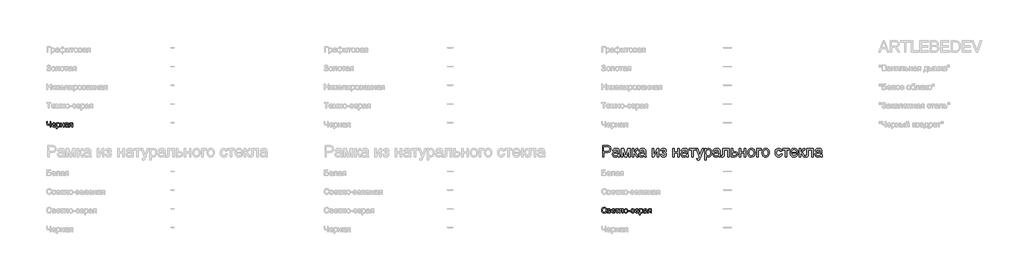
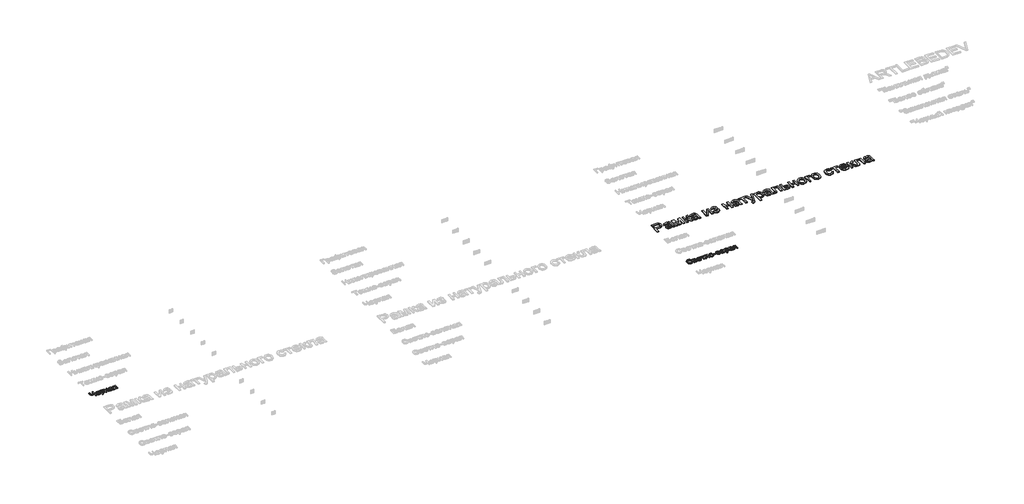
# One storey, part 108 of 168: 3 proxies.
"""IFC4 building model written with IfcOpenShell, lengths in millimetres."""

from ifc_helpers import new_model, si_unit, origin, origin_with_axes, place, context, project, spatial, polyline, outline, extrude, element, save

model = new_model("IFC4")

# Units and contexts
model_context = context("Model", 3, world=origin())
ifc_project = project(units=[si_unit("LENGTHUNIT", "METRE", prefix="MILLI")], contexts=[model_context])

# Site, building, storey
site = spatial("IfcSite", under=ifc_project)
building = spatial("IfcBuilding", under=site)
storey = spatial("IfcBuildingStorey", under=building, Name="Этаж 01", Elevation=0.0)

# Proxies
placement = place(None, origin())
element("IfcBuildingElementProxy", 1, Name="300 мм Arial 2", ObjectType="300 мм Arial 2", at=placement, inside=storey, context=model_context, shape_type="SweptSolid", body=[
    extrude(outline(polyline([(47699.0945017, -16348.4056816), (47699.0945017, -16047.0367511), (47810.7834754, -16047.0367511), (47855.8122316, -16049.9062307), (47875.8893915, -16055.2681108), (47892.4164901, -16063.9961111), (47905.7246213, -16076.4857048), (47916.1448788, -16093.1323651), (47922.8771193, -16112.7680666), (47925.1211995, -16134.224784), (47923.6059855, -16152.7246498), (47919.0603436, -16169.7437906), (47911.4842738, -16185.2822064), (47900.877776, -16199.3398971), (47886.3165468, -16210.9925593), (47866.8762826, -16219.3158895), (47842.5569835, -16224.3098875), (47813.3586494, -16225.9745536), (47736.765618, -16225.9745536), (47736.765618, -16348.4056816), (47699.0945017, -16348.4056816)]), holes=[polyline([(47736.765618, -16188.3034373), (47815.5659413, -16188.3034373), (47848.9696265, -16184.8453465), (47871.0425462, -16174.4710742), (47883.3481989, -16157.824414), (47887.4500832, -16135.5491592), (47885.0312591, -16118.6265874), (47877.7747867, -16104.352766), (47866.581977, -16093.6106117), (47852.3541408, -16087.2830414), (47814.6830245, -16084.7078674), (47736.765618, -16084.7078674), (47736.765618, -16188.3034373)])]), origin_with_axes(), (0.0, 0.0, 1.0), 20.0),
    extrude(outline(polyline([(48113.476781, -16320.1523443), (48095.4781544, -16335.584994), (48076.9460989, -16345.6833548), (48057.4575502, -16351.256767), (48036.589444, -16353.1145711), (48005.1079423, -16348.6448049), (47981.8853914, -16335.2355061), (47967.5655847, -16314.8732377), (47962.7923158, -16289.5445623), (47964.5949376, -16273.9279716), (47970.0028029, -16259.7461207), (47978.3445271, -16247.6060149), (47988.9487257, -16238.1146594), (48015.3258647, -16225.7538244), (48047.9202095, -16220.0884417), (48086.4374544, -16214.1287533), (48113.2560518, -16207.1389954), (48113.476781, -16198.7512859), (48110.883213, -16181.9390788), (48103.1025088, -16170.9394071), (48085.7016904, -16162.7724268), (48061.4582669, -16160.0501), (48039.0174652, -16161.8619189), (48023.3456922, -16167.2973753), (48012.6587202, -16177.3497509), (48005.1723216, -16193.0123268), (47967.5012053, -16188.3034373), (47974.0403078, -16167.7020455), (47983.7983777, -16151.5152378), (47997.685923, -16139.1360086), (48016.6134517, -16129.9573528), (48039.7624262, -16124.273576), (48066.3143092, -16122.3789837), (48091.7809404, -16124.0528468), (48111.9684648, -16129.074436), (48127.1895824, -16136.625214), (48137.7569927, -16145.8866432), (48144.7651447, -16157.3369703), (48149.3084874, -16171.4544419), (48151.1478973, -16204.4166687), (48151.1478973, -16251.2848348), (48153.0608837, -16316.7310418), (48160.5656764, -16348.4056816), (48122.8945601, -16348.4056816), (48113.476781, -16320.1523443)]), holes=[polyline([(48113.476781, -16244.8101117), (48052.7026754, -16256.3616064), (48020.2922716, -16262.4684475), (48005.61378, -16272.4012614), (48000.4634321, -16286.895812), (48003.2685323, -16298.0978187), (48011.683833, -16307.2764745), (48025.525393, -16313.4017097), (48044.6092715, -16315.4434548), (48064.8427813, -16313.1901776), (48082.7218462, -16306.4303459), (48097.2163968, -16296.4699409), (48107.2963635, -16284.6149436), (48111.7661297, -16272.4012614), (48113.2560518, -16255.4786896), (48113.476781, -16244.8101117)])]), origin_with_axes(), (0.0, 0.0, 1.0), 20.0),
    extrude(outline(polyline([(48202.9456823, -16127.0878733), (48267.7664898, -16127.0878733), (48317.7248647, -16304.2598421), (48371.5827888, -16127.0878733), (48433.6812696, -16127.0878733), (48433.6812696, -16348.4056816), (48396.0101533, -16348.4056816), (48396.0101533, -16170.2036431), (48341.8579236, -16348.4056816), (48292.4145835, -16348.4056816), (48240.6167986, -16161.6687808), (48240.6167986, -16348.4056816), (48202.9456823, -16348.4056816), (48202.9456823, -16127.0878733)])), origin_with_axes(), (0.0, 0.0, 1.0), 20.0),
    extrude(outline(polyline([(48490.1879441, -16127.0878733), (48527.8590604, -16127.0878733), (48527.8590604, -16221.265664), (48543.1813455, -16219.5734069), (48553.0957653, -16214.4966353), (48561.8697508, -16201.2528835), (48573.7707334, -16175.0596854), (48590.9508226, -16141.0306009), (48606.1075608, -16129.9573528), (48633.6619222, -16127.0878733), (48640.8724093, -16127.0878733), (48640.8724093, -16164.9797188), (48630.7188662, -16164.7589896), (48612.3247665, -16168.7321151), (48599.3753203, -16193.5273616), (48584.1817939, -16220.345959), (48562.8814263, -16233.4793463), (48574.8191971, -16238.7814455), (48586.6466032, -16248.1394438), (48609.9703217, -16279.0231373), (48650.2901884, -16348.4056816), (48607.4687241, -16348.4056816), (48567.9581979, -16280.4946653), (48548.0925701, -16251.7630814), (48538.8035497, -16246.5483542), (48527.8590604, -16244.8101117), (48527.8590604, -16348.4056816), (48490.1879441, -16348.4056816), (48490.1879441, -16127.0878733)])), origin_with_axes(), (0.0, 0.0, 1.0), 20.0),
    extrude(outline(polyline([(48815.1013222, -16320.1523443), (48797.1026956, -16335.584994), (48778.5706401, -16345.6833548), (48759.0820914, -16351.256767), (48738.2139852, -16353.1145711), (48706.7324835, -16348.6448049), (48683.5099326, -16335.2355061), (48669.1901259, -16314.8732377), (48664.416857, -16289.5445623), (48666.2194788, -16273.9279716), (48671.6273441, -16259.7461207), (48679.9690683, -16247.6060149), (48690.5732669, -16238.1146594), (48716.9504059, -16225.7538244), (48749.5447507, -16220.0884417), (48788.0619956, -16214.1287533), (48814.880593, -16207.1389954), (48815.1013222, -16198.7512859), (48812.5077542, -16181.9390788), (48804.72705, -16170.9394071), (48787.3262316, -16162.7724268), (48763.0828081, -16160.0501), (48740.6420064, -16161.8619189), (48724.9702334, -16167.2973753), (48714.2832614, -16177.3497509), (48706.7968628, -16193.0123268), (48669.1257465, -16188.3034373), (48675.664849, -16167.7020455), (48685.4229189, -16151.5152378), (48699.3104642, -16139.1360086), (48718.2379929, -16129.9573528), (48741.3869674, -16124.273576), (48767.9388504, -16122.3789837), (48793.4054816, -16124.0528468), (48813.593006, -16129.074436), (48828.8141236, -16136.625214), (48839.3815339, -16145.8866432), (48846.3896859, -16157.3369703), (48850.9330286, -16171.4544419), (48852.7724385, -16204.4166687), (48852.7724385, -16251.2848348), (48854.6854249, -16316.7310418), (48862.1902176, -16348.4056816), (48824.5191013, -16348.4056816), (48815.1013222, -16320.1523443)]), holes=[polyline([(48815.1013222, -16244.8101117), (48754.3272166, -16256.3616064), (48721.9168128, -16262.4684475), (48707.2383212, -16272.4012614), (48702.0879733, -16286.895812), (48704.8930735, -16298.0978187), (48713.3083742, -16307.2764745), (48727.1499342, -16313.4017097), (48746.2338127, -16315.4434548), (48766.4673225, -16313.1901776), (48784.3463874, -16306.4303459), (48798.840938, -16296.4699409), (48808.9209047, -16284.6149436), (48813.3906709, -16272.4012614), (48814.880593, -16255.4786896), (48815.1013222, -16244.8101117)])]), origin_with_axes(), (0.0, 0.0, 1.0), 20.0),
    extrude(outline(polyline([(49022.2924619, -16127.0878733), (49059.9635782, -16127.0878733), (49059.9635782, -16295.8721327), (49152.5226882, -16127.0878733), (49201.2302644, -16127.0878733), (49201.2302644, -16348.4056816), (49163.5591481, -16348.4056816), (49163.5591481, -16180.6514918), (49071.5886493, -16348.4056816), (49022.2924619, -16348.4056816), (49022.2924619, -16127.0878733)])), origin_with_axes(), (0.0, 0.0, 1.0), 20.0),
    extrude(outline(polyline([(49309.5347237, -16249.5190013), (49309.5347237, -16211.847885), (49339.259589, -16210.376357), (49354.2691744, -16202.5404705), (49359.5666751, -16195.1920276), (49361.3325087, -16186.1697217), (49358.9688668, -16175.4551586), (49351.8779414, -16167.1502225), (49341.0530137, -16161.8251307), (49327.4873651, -16160.0501), (49313.7745637, -16161.8159336), (49302.2874484, -16167.1134343), (49293.0260192, -16175.9426022), (49285.9902761, -16188.3034373), (49243.6102702, -16183.5945477), (49254.8490652, -16156.8127385), (49271.9371838, -16137.6828747), (49294.8746262, -16126.2049565), (49323.6613924, -16122.3789837), (49355.1520911, -16127.041888), (49378.9908444, -16141.0306009), (49394.0004298, -16161.4940369), (49399.003625, -16185.5811105), (49397.2239958, -16197.9419455), (49391.8851084, -16208.9784054), (49382.9869626, -16218.6904901), (49370.5295585, -16227.0781996), (49385.0700944, -16237.5444423), (49395.4351696, -16250.5490709), (49401.6431783, -16266.1288733), (49403.7125145, -16284.320638), (49398.460999, -16312.0497434), (49382.7064526, -16334.0214956), (49357.515733, -16348.3413022), (49323.955698, -16353.1145711), (49291.1314269, -16348.6999872), (49266.0142837, -16335.4562353), (49248.6042683, -16313.3833156), (49238.9013807, -16282.481228), (49281.2813865, -16277.7723385), (49287.6273509, -16293.7016289), (49298.2775347, -16305.5842173), (49311.9995331, -16312.9786454), (49327.5609415, -16315.4434548), (49342.7176797, -16313.079813), (49355.0785147, -16305.9888875), (49363.3006773, -16295.2191421), (49366.0413982, -16281.8190404), (49364.339944, -16271.2056449), (49359.2355813, -16262.0269891), (49344.7410307, -16251.4319876), (49316.8923636, -16249.2982721), (49309.5347237, -16249.5190013)])), origin_with_axes(), (0.0, 0.0, 1.0), 20.0),
    extrude(outline(polyline([(49568.5236483, -16127.0878733), (49606.1947647, -16127.0878733), (49606.1947647, -16211.847885), (49705.081445, -16211.847885), (49705.081445, -16127.0878733), (49742.7525613, -16127.0878733), (49742.7525613, -16348.4056816), (49705.081445, -16348.4056816), (49705.081445, -16249.5190013), (49606.1947647, -16249.5190013), (49606.1947647, -16348.4056816), (49568.5236483, -16348.4056816), (49568.5236483, -16127.0878733)])), origin_with_axes(), (0.0, 0.0, 1.0), 20.0),
    extrude(outline(polyline([(49940.5259219, -16320.1523443), (49922.5272953, -16335.584994), (49903.9952397, -16345.6833548), (49884.5066911, -16351.256767), (49863.6385849, -16353.1145711), (49832.1570831, -16348.6448049), (49808.9345322, -16335.2355061), (49794.6147255, -16314.8732377), (49789.8414566, -16289.5445623), (49791.6440784, -16273.9279716), (49797.0519438, -16259.7461207), (49805.393668, -16247.6060149), (49815.9978665, -16238.1146594), (49842.3750056, -16225.7538244), (49874.9693503, -16220.0884417), (49913.4865952, -16214.1287533), (49940.3051927, -16207.1389954), (49940.5259219, -16198.7512859), (49937.9323538, -16181.9390788), (49930.1516496, -16170.9394071), (49912.7508312, -16162.7724268), (49888.5074078, -16160.0501), (49866.066606, -16161.8619189), (49850.3948331, -16167.2973753), (49839.7078611, -16177.3497509), (49832.2214625, -16193.0123268), (49794.5503462, -16188.3034373), (49801.0894486, -16167.7020455), (49810.8475186, -16151.5152378), (49824.7350639, -16139.1360086), (49843.6625925, -16129.9573528), (49866.8115671, -16124.273576), (49893.3634501, -16122.3789837), (49918.8300812, -16124.0528468), (49939.0176057, -16129.074436), (49954.2387232, -16136.625214), (49964.8061336, -16145.8866432), (49971.8142856, -16157.3369703), (49976.3576282, -16171.4544419), (49978.1970382, -16204.4166687), (49978.1970382, -16251.2848348), (49980.1100246, -16316.7310418), (49987.6148173, -16348.4056816), (49949.9437009, -16348.4056816), (49940.5259219, -16320.1523443)]), holes=[polyline([(49940.5259219, -16244.8101117), (49879.7518163, -16256.3616064), (49847.3414125, -16262.4684475), (49832.6629209, -16272.4012614), (49827.512573, -16286.895812), (49830.3176732, -16298.0978187), (49838.7329738, -16307.2764745), (49852.5745339, -16313.4017097), (49871.6584124, -16315.4434548), (49891.8919221, -16313.1901776), (49909.7709871, -16306.4303459), (49924.2655377, -16296.4699409), (49934.3455044, -16284.6149436), (49938.8152706, -16272.4012614), (49940.3051927, -16255.4786896), (49940.5259219, -16244.8101117)])]), origin_with_axes(), (0.0, 0.0, 1.0), 20.0),
    extrude(outline(polyline([(50011.1592649, -16127.0878733), (50190.0970674, -16127.0878733), (50190.0970674, -16164.7589896), (50119.4637243, -16164.7589896), (50119.4637243, -16348.4056816), (50081.792608, -16348.4056816), (50081.792608, -16164.7589896), (50011.1592649, -16164.7589896), (50011.1592649, -16127.0878733)])), origin_with_axes(), (0.0, 0.0, 1.0), 20.0),
    extrude(outline(polyline([(50223.0592942, -16433.1656933), (50218.3504046, -16396.8925285), (50237.4802684, -16400.2034665), (50255.3593333, -16396.0463999), (50266.3222168, -16384.4581171), (50276.6229127, -16356.7198147), (50279.5659686, -16347.5963412), (50199.5148465, -16127.0878733), (50239.246102, -16127.0878733), (50281.6996842, -16249.9604597), (50296.4885404, -16299.1094942), (50311.2773966, -16255.6994188), (50354.9082012, -16127.0878733), (50394.3451511, -16127.0878733), (50317.3106613, -16353.7031823), (50297.2978808, -16402.8522169), (50287.0523672, -16418.5423839), (50275.4456903, -16429.4132969), (50261.9628152, -16435.7592613), (50246.0887071, -16437.8745828), (50223.0592942, -16433.1656933)])), origin_with_axes(), (0.0, 0.0, 1.0), 20.0),
    extrude(outline(polyline([(50425.5415443, -16433.1656933), (50425.5415443, -16127.0878733), (50463.2126606, -16127.0878733), (50463.2126606, -16164.0232256), (50475.4999193, -16145.8038698), (50489.2587059, -16132.7900442), (50505.2983609, -16124.9817488), (50524.4282246, -16122.3789837), (50549.9040528, -16126.0210155), (50572.1793076, -16136.9471107), (50590.31589, -16154.4950819), (50603.3757008, -16178.0027414), (50611.2667696, -16205.7594379), (50613.8971258, -16236.0545202), (50610.9264787, -16268.271786), (50602.0145374, -16297.0861432), (50587.4464104, -16321.0352611), (50567.5072063, -16338.6568087), (50544.2846553, -16349.5001305), (50519.8664879, -16353.1145711), (50502.548443, -16350.695747), (50487.0882021, -16343.4392746), (50473.8536473, -16332.4855882), (50463.2126606, -16318.975122), (50463.2126606, -16433.1656933), (50425.5415443, -16433.1656933)]), holes=[polyline([(50463.2126606, -16239.512611), (50467.2869537, -16273.2841782), (50479.509833, -16296.9022022), (50497.5452478, -16310.8081417), (50519.0571475, -16315.4434548), (50540.918535, -16310.6425948), (50559.4138024, -16296.2400147), (50572.0229577, -16271.7574679), (50576.2260095, -16236.7167078), (50572.1241253, -16203.1290817), (50559.8184726, -16179.1799638), (50541.8106489, -16164.832566), (50520.6022519, -16160.0501), (50499.3110814, -16165.1360686), (50480.613479, -16180.3939744), (50467.5628652, -16205.3455707), (50463.2126606, -16239.512611)])]), origin_with_axes(), (0.0, 0.0, 1.0), 20.0),
    extrude(outline(polyline([(50797.5438178, -16320.1523443), (50779.5451912, -16335.584994), (50761.0131357, -16345.6833548), (50741.524587, -16351.256767), (50720.6564808, -16353.1145711), (50689.1749791, -16348.6448049), (50665.9524282, -16335.2355061), (50651.6326215, -16314.8732377), (50646.8593526, -16289.5445623), (50648.6619744, -16273.9279716), (50654.0698397, -16259.7461207), (50662.411564, -16247.6060149), (50673.0157625, -16238.1146594), (50699.3929015, -16225.7538244), (50731.9872463, -16220.0884417), (50770.5044912, -16214.1287533), (50797.3230886, -16207.1389954), (50797.5438178, -16198.7512859), (50794.9502498, -16181.9390788), (50787.1695456, -16170.9394071), (50769.7687272, -16162.7724268), (50745.5253037, -16160.0501), (50723.084502, -16161.8619189), (50707.412729, -16167.2973753), (50696.7257571, -16177.3497509), (50689.2393585, -16193.0123268), (50651.5682421, -16188.3034373), (50658.1073446, -16167.7020455), (50667.8654145, -16151.5152378), (50681.7529599, -16139.1360086), (50700.6804885, -16129.9573528), (50723.8294631, -16124.273576), (50750.3813461, -16122.3789837), (50775.8479772, -16124.0528468), (50796.0355017, -16129.074436), (50811.2566192, -16136.625214), (50821.8240295, -16145.8866432), (50828.8321815, -16157.3369703), (50833.3755242, -16171.4544419), (50835.2149341, -16204.4166687), (50835.2149341, -16251.2848348), (50837.1279205, -16316.7310418), (50844.6327132, -16348.4056816), (50806.9615969, -16348.4056816), (50797.5438178, -16320.1523443)]), holes=[polyline([(50797.5438178, -16244.8101117), (50736.7697122, -16256.3616064), (50704.3593085, -16262.4684475), (50689.6808168, -16272.4012614), (50684.5304689, -16286.895812), (50687.3355691, -16298.0978187), (50695.7508698, -16307.2764745), (50709.5924298, -16313.4017097), (50728.6763083, -16315.4434548), (50748.9098181, -16313.1901776), (50766.788883, -16306.4303459), (50781.2834336, -16296.4699409), (50791.3634003, -16284.6149436), (50795.8331666, -16272.4012614), (50797.3230886, -16255.4786896), (50797.5438178, -16244.8101117)])]), origin_with_axes(), (0.0, 0.0, 1.0), 20.0),
    extrude(outline(polyline([(50905.8482772, -16127.0878733), (51075.3683006, -16127.0878733), (51075.3683006, -16348.1849524), (51037.6971843, -16348.1849524), (51037.6971843, -16164.7589896), (50943.5193935, -16164.7589896), (50943.5193935, -16270.3411222), (50940.9810078, -16319.0486984), (50936.226133, -16330.0759612), (50927.0382801, -16339.6133019), (50913.0955525, -16346.2075866), (50894.0760534, -16348.4056816), (50863.4682714, -16346.4926952), (50863.4682714, -16310.7345653), (50880.3172667, -16310.7345653), (50897.3502031, -16308.4169087), (50904.15602, -16301.0592688), (50905.8482772, -16268.2074066), (50905.8482772, -16127.0878733)])), origin_with_axes(), (0.0, 0.0, 1.0), 20.0),
    extrude(outline(polyline([(51131.8749751, -16127.0878733), (51169.5460914, -16127.0878733), (51169.5460914, -16207.1389954), (51212.9561668, -16207.1389954), (51250.5904949, -16211.857082), (51265.738036, -16217.7546902), (51278.4391619, -16226.0113418), (51288.4823404, -16236.3419281), (51295.6560393, -16248.4613405), (51301.3949984, -16278.0666441), (51296.5113649, -16305.0231973), (51281.8604645, -16327.7675016), (51270.6285673, -16336.7967054), (51256.4674098, -16343.2461366), (51219.3573135, -16348.4056816), (51131.8749751, -16348.4056816), (51131.8749751, -16127.0878733)]), holes=[polyline([(51169.5460914, -16310.7345653), (51204.7156101, -16310.7345653), (51232.0032571, -16308.7571995), (51250.1490365, -16302.8251024), (51260.3301707, -16292.6991504), (51263.7238821, -16278.1402205), (51261.2130875, -16265.8345678), (51253.6807037, -16254.9636548), (51237.5398811, -16247.3484975), (51209.2037704, -16244.8101117), (51169.5460914, -16244.8101117), (51169.5460914, -16310.7345653)])]), origin_with_axes(), (0.0, 0.0, 1.0), 20.0),
    extrude(outline(polyline([(51348.4838938, -16127.0878733), (51386.1550101, -16127.0878733), (51386.1550101, -16211.847885), (51485.0416904, -16211.847885), (51485.0416904, -16127.0878733), (51522.7128067, -16127.0878733), (51522.7128067, -16348.4056816), (51485.0416904, -16348.4056816), (51485.0416904, -16249.5190013), (51386.1550101, -16249.5190013), (51386.1550101, -16348.4056816), (51348.4838938, -16348.4056816), (51348.4838938, -16127.0878733)])), origin_with_axes(), (0.0, 0.0, 1.0), 20.0),
    extrude(outline(polyline([(51569.8017021, -16237.7467774), (51571.8388487, -16209.0841715), (51577.9502883, -16184.385494), (51588.136021, -16163.6507451), (51602.3960469, -16146.8799246), (51616.7526417, -16136.160763), (51632.5991587, -16128.504219), (51649.9355977, -16123.9102925), (51668.7619588, -16122.3789837), (51689.5449923, -16124.2436856), (51708.3368644, -16129.8377912), (51725.1375753, -16139.1613005), (51739.9471249, -16152.2142135), (51752.0343477, -16168.5550719), (51760.6680783, -16187.7424172), (51765.8483166, -16209.7762495), (51767.5750627, -16234.6565687), (51764.5216422, -16272.7139611), (51755.3613805, -16301.6846682), (51740.3609921, -16323.3805088), (51719.7871915, -16339.6133019), (51695.35063, -16349.7392538), (51668.7619588, -16353.1145711), (51647.6754227, -16351.256767), (51628.7088066, -16345.6833548), (51611.8621105, -16336.3943344), (51597.1353344, -16323.3897059), (51585.1768702, -16306.8901984), (51576.6351102, -16287.1165412), (51571.5100541, -16264.0687342), (51569.8017021, -16237.7467774)]), holes=[polyline([(51607.4728184, -16237.673201), (51611.8322201, -16271.7666649), (51624.910425, -16296.0560737), (51644.5921117, -16310.5966095), (51668.7619588, -16315.4434548), (51692.8214413, -16310.5690184), (51712.4663398, -16295.9457091), (51725.5445448, -16271.3344036), (51729.9039464, -16236.4959786), (51725.5169536, -16203.3957961), (51712.3559752, -16179.4374812), (51692.6834855, -16164.8969453), (51668.7619588, -16160.0501), (51644.5921117, -16164.8785512), (51624.910425, -16179.3639048), (51611.8322201, -16203.5981312), (51607.4728184, -16237.673201)])]), origin_with_axes(), (0.0, 0.0, 1.0), 20.0),
    extrude(outline(polyline([(51809.9550686, -16127.0878733), (51932.3861966, -16127.0878733), (51932.3861966, -16164.7589896), (51847.6261849, -16164.7589896), (51847.6261849, -16348.4056816), (51809.9550686, -16348.4056816), (51809.9550686, -16127.0878733)])), origin_with_axes(), (0.0, 0.0, 1.0), 20.0),
    extrude(outline(polyline([(51951.2217547, -16237.7467774), (51953.2589013, -16209.0841715), (51959.3703409, -16184.385494), (51969.5560736, -16163.6507451), (51983.8160995, -16146.8799246), (51998.1726943, -16136.160763), (52014.0192113, -16128.504219), (52031.3556503, -16123.9102925), (52050.1820114, -16122.3789837), (52070.9650449, -16124.2436856), (52089.756917, -16129.8377912), (52106.5576279, -16139.1613005), (52121.3671775, -16152.2142135), (52133.4544003, -16168.5550719), (52142.0881309, -16187.7424172), (52147.2683692, -16209.7762495), (52148.9951153, -16234.6565687), (52145.9416948, -16272.7139611), (52136.7814331, -16301.6846682), (52121.7810447, -16323.3805088), (52101.2072441, -16339.6133019), (52076.7706826, -16349.7392538), (52050.1820114, -16353.1145711), (52029.0954753, -16351.256767), (52010.1288592, -16345.6833548), (51993.2821631, -16336.3943344), (51978.555387, -16323.3897059), (51966.5969228, -16306.8901984), (51958.0551628, -16287.1165412), (51952.9301067, -16264.0687342), (51951.2217547, -16237.7467774)]), holes=[polyline([(51988.892871, -16237.673201), (51993.2522727, -16271.7666649), (52006.3304776, -16296.0560737), (52026.0121643, -16310.5966095), (52050.1820114, -16315.4434548), (52074.2414939, -16310.5690184), (52093.8863924, -16295.9457091), (52106.9645974, -16271.3344036), (52111.323999, -16236.4959786), (52106.9370062, -16203.3957961), (52093.7760278, -16179.4374812), (52074.1035381, -16164.8969453), (52050.1820114, -16160.0501), (52026.0121643, -16164.8785512), (52006.3304776, -16179.3639048), (51993.2522727, -16203.5981312), (51988.892871, -16237.673201)])]), origin_with_axes(), (0.0, 0.0, 1.0), 20.0),
    extrude(outline(polyline([(52450.3640458, -16268.3545594), (52488.0351621, -16273.063449), (52477.5321311, -16306.5683017), (52457.7952621, -16331.88778), (52430.682359, -16347.8078733), (52398.0512261, -16353.1145711), (52376.9233032, -16351.2636648), (52357.9796797, -16345.710946), (52341.2203556, -16336.4564145), (52326.6453308, -16323.5000705), (52314.8478151, -16307.0856357), (52306.4210181, -16287.456832), (52301.3649399, -16264.6136594), (52299.6795805, -16238.5561178), (52302.5582572, -16205.032871), (52311.194287, -16175.9793904), (52325.7256258, -16152.5177162), (52346.2902293, -16135.7698884), (52370.8923378, -16125.7267099), (52397.5361913, -16122.3789837), (52429.3671809, -16126.9775087), (52454.8154179, -16140.7730835), (52473.0715619, -16163.0299442), (52483.3262725, -16193.0123268), (52445.6551562, -16197.7212163), (52438.8217482, -16181.2860882), (52428.1807615, -16169.5046673), (52414.3208073, -16162.4137419), (52397.8304969, -16160.0501), (52373.4859058, -16164.7038073), (52354.162904, -16178.664929), (52341.5537486, -16202.6876233), (52337.3506968, -16237.5260482), (52341.4617781, -16272.8335227), (52353.795022, -16296.9389904), (52372.7685359, -16310.8173387), (52396.8004273, -16315.4434548), (52416.3073701, -16312.5555811), (52432.3010398, -16303.8919602), (52443.9353079, -16289.2318626), (52450.3640458, -16268.3545594)])), origin_with_axes(), (0.0, 0.0, 1.0), 20.0),
    extrude(outline(polyline([(52502.1618307, -16127.0878733), (52681.0996331, -16127.0878733), (52681.0996331, -16164.7589896), (52610.4662901, -16164.7589896), (52610.4662901, -16348.4056816), (52572.7951738, -16348.4056816), (52572.7951738, -16164.7589896), (52502.1618307, -16164.7589896), (52502.1618307, -16127.0878733)])), origin_with_axes(), (0.0, 0.0, 1.0), 20.0),
    extrude(outline(polyline([(52869.0137563, -16282.481228), (52905.9491086, -16287.1901176), (52892.6409774, -16315.0203905), (52871.4049892, -16335.8241173), (52842.7193907, -16348.7919577), (52807.0624283, -16353.1145711), (52783.688126, -16351.2498692), (52762.8614066, -16345.6557637), (52744.5822699, -16336.3322543), (52728.8507161, -16323.2793413), (52716.200174, -16306.860308), (52707.1640725, -16287.4384379), (52701.7424116, -16265.013731), (52699.9351913, -16239.5861874), (52701.7608057, -16213.2964203), (52707.2376489, -16190.1244531), (52716.3657209, -16170.0702859), (52729.1450217, -16153.1339185), (52744.8351888, -16139.6786346), (52762.6958597, -16130.0677174), (52782.7270343, -16124.3011672), (52804.9287127, -16122.3789837), (52826.4153205, -16124.2965686), (52845.8463876, -16130.0493233), (52863.2219141, -16139.6372478), (52878.5419, -16153.0603421), (52891.0475885, -16169.9599213), (52899.9802232, -16189.9773003), (52905.339804, -16213.1124793), (52907.126331, -16239.3654582), (52906.9056018, -16249.5190013), (52737.6063076, -16249.5190013), (52744.127016, -16277.7171562), (52759.2745571, -16298.4473066), (52781.1359447, -16311.1944178), (52807.7981923, -16315.4434548), (52827.847761, -16313.4752861), (52844.7335446, -16307.5707801), (52858.455543, -16297.3620547), (52869.0137563, -16282.481228)]), holes=[polyline([(52737.6063076, -16211.847885), (52869.4552147, -16211.847885), (52864.360049, -16191.945469), (52854.3720529, -16177.7084358), (52832.4094978, -16164.464684), (52804.7815599, -16160.0501), (52779.3885052, -16163.5725701), (52758.3916403, -16174.1399805), (52743.7959222, -16190.6118968), (52737.6063076, -16211.847885)])]), origin_with_axes(), (0.0, 0.0, 1.0), 20.0),
    extrude(outline(polyline([(53147.2796974, -16127.0878733), (53316.7997208, -16127.0878733), (53316.7997208, -16348.1849524), (53279.1286045, -16348.1849524), (53279.1286045, -16164.7589896), (53184.9508137, -16164.7589896), (53184.9508137, -16270.3411222), (53182.412428, -16319.0486984), (53177.6575532, -16330.0759612), (53168.4697004, -16339.6133019), (53154.5269727, -16346.2075866), (53135.5074736, -16348.4056816), (53104.8996916, -16346.4926952), (53104.8996916, -16310.7345653), (53121.748687, -16310.7345653), (53138.7816233, -16308.4169087), (53145.5874403, -16301.0592688), (53147.2796974, -16268.2074066), (53147.2796974, -16127.0878733)])), origin_with_axes(), (0.0, 0.0, 1.0), 20.0),
    extrude(outline(polyline([(52944.7974473, -16127.0878733), (52982.4685636, -16127.0878733), (52982.4685636, -16221.265664), (52997.7908487, -16219.5734069), (53007.7052685, -16214.4966353), (53016.479254, -16201.2528835), (53028.3802366, -16175.0596854), (53045.5603258, -16141.0306009), (53060.717064, -16129.9573528), (53088.2714254, -16127.0878733), (53095.4819125, -16127.0878733), (53095.4819125, -16164.9797188), (53085.3283694, -16164.7589896), (53066.9342697, -16168.7321151), (53053.9848235, -16193.5273616), (53038.7912971, -16220.345959), (53017.4909295, -16233.4793463), (53029.4287003, -16238.7814455), (53041.2561064, -16248.1394438), (53064.5798249, -16279.0231373), (53104.8996916, -16348.4056816), (53062.0782273, -16348.4056816), (53022.5677011, -16280.4946653), (53002.7020733, -16251.7630814), (52993.4130529, -16246.5483542), (52982.4685636, -16244.8101117), (52982.4685636, -16348.4056816), (52944.7974473, -16348.4056816), (52944.7974473, -16127.0878733)])), origin_with_axes(), (0.0, 0.0, 1.0), 20.0),
    extrude(outline(polyline([(53514.5730814, -16320.1523443), (53496.5744548, -16335.584994), (53478.0423993, -16345.6833548), (53458.5538506, -16351.256767), (53437.6857444, -16353.1145711), (53406.2042427, -16348.6448049), (53382.9816917, -16335.2355061), (53368.6618851, -16314.8732377), (53363.8886162, -16289.5445623), (53365.691238, -16273.9279716), (53371.0991033, -16259.7461207), (53379.4408275, -16247.6060149), (53390.045026, -16238.1146594), (53416.4221651, -16225.7538244), (53449.0165099, -16220.0884417), (53487.5337548, -16214.1287533), (53514.3523522, -16207.1389954), (53514.5730814, -16198.7512859), (53511.9795133, -16181.9390788), (53504.1988091, -16170.9394071), (53486.7979908, -16162.7724268), (53462.5545673, -16160.0501), (53440.1137656, -16161.8619189), (53424.4419926, -16167.2973753), (53413.7550206, -16177.3497509), (53406.268622, -16193.0123268), (53368.5975057, -16188.3034373), (53375.1366082, -16167.7020455), (53384.8946781, -16151.5152378), (53398.7822234, -16139.1360086), (53417.7097521, -16129.9573528), (53440.8587266, -16124.273576), (53467.4106096, -16122.3789837), (53492.8772407, -16124.0528468), (53513.0647652, -16129.074436), (53528.2858828, -16136.625214), (53538.8532931, -16145.8866432), (53545.8614451, -16157.3369703), (53550.4047877, -16171.4544419), (53552.2441977, -16204.4166687), (53552.2441977, -16251.2848348), (53554.1571841, -16316.7310418), (53561.6619768, -16348.4056816), (53523.9908605, -16348.4056816), (53514.5730814, -16320.1523443)]), holes=[polyline([(53514.5730814, -16244.8101117), (53453.7989758, -16256.3616064), (53421.388572, -16262.4684475), (53406.7100804, -16272.4012614), (53401.5597325, -16286.895812), (53404.3648327, -16298.0978187), (53412.7801333, -16307.2764745), (53426.6216934, -16313.4017097), (53445.7055719, -16315.4434548), (53465.9390817, -16313.1901776), (53483.8181466, -16306.4303459), (53498.3126972, -16296.4699409), (53508.3926639, -16284.6149436), (53512.8624301, -16272.4012614), (53514.3523522, -16255.4786896), (53514.5730814, -16244.8101117)])]), origin_with_axes(), (0.0, 0.0, 1.0), 20.0),
])
element("IfcBuildingElementProxy", 2, Name="150", ObjectType="150", at=placement, inside=storey, context=model_context, shape_type="SweptSolid", body=[
    extrude(outline(polyline([(32988.5634029, -15548.4056816), (32969.7278447, -15548.4056816), (32969.7278447, -15488.0730344), (32944.7486573, -15496.2400147), (32923.0804077, -15498.9623414), (32908.3973176, -15497.0999388), (32895.5444404, -15491.512731), (32885.5840354, -15483.0606422), (32879.5783618, -15472.6035965), (32875.550054, -15442.6028198), (32875.550054, -15397.7212163), (32894.3856121, -15397.7212163), (32894.3856121, -15440.064434), (32896.6480864, -15460.4313009), (32903.4355092, -15472.3828673), (32913.3959142, -15478.1908043), (32925.1773351, -15480.1267833), (32946.909964, -15477.7907326), (32969.7278447, -15470.7825806), (32969.7278447, -15397.7212163), (32988.5634029, -15397.7212163), (32988.5634029, -15548.4056816)])), origin_with_axes(), (0.0, 0.0, 1.0), 20.0),
    extrude(outline(polyline([(33096.6471331, -15515.4434548), (33115.1148092, -15517.7978996), (33108.4607436, -15531.713036), (33097.8427496, -15542.1148995), (33083.4999503, -15548.5988196), (33065.6714691, -15550.7601263), (33043.5709582, -15547.0307226), (33026.565613, -15535.8425114), (33015.7222912, -15517.9220597), (33012.1078506, -15493.9959345), (33015.7590794, -15469.2650674), (33026.7127658, -15450.7698), (33043.4881848, -15439.2366995), (33064.6046113, -15435.3923327), (33085.0634487, -15439.2275025), (33101.4112049, -15450.7330118), (33112.1303665, -15469.191491), (33115.7034204, -15493.8855699), (33115.5930558, -15498.9623414), (33030.9434087, -15498.9623414), (33034.2037629, -15513.0614189), (33041.7775335, -15523.4264941), (33052.7082273, -15529.8000497), (33066.0393511, -15531.9245682), (33084.5070272, -15527.9882308), (33096.6471331, -15515.4434548)]), holes=[polyline([(33030.9434087, -15480.1267833), (33096.8678623, -15480.1267833), (33094.3202794, -15470.1755753), (33089.3262814, -15463.0570587), (33078.3450038, -15456.4351828), (33064.5310349, -15454.2278908), (33051.8345075, -15455.9891259), (33041.3360751, -15461.272831), (33034.038216, -15469.5087892), (33030.9434087, -15480.1267833)])]), origin_with_axes(), (0.0, 0.0, 1.0), 20.0),
    extrude(outline(polyline([(33134.5389786, -15590.7856874), (33134.5389786, -15437.7467774), (33153.3745367, -15437.7467774), (33153.3745367, -15456.2144536), (33166.3975594, -15440.5978629), (33183.9823187, -15435.3923327), (33196.7202328, -15437.2133485), (33207.8578602, -15442.6763962), (33216.9261514, -15451.4503817), (33223.4560568, -15463.2042115), (33228.7167693, -15492.2301009), (33227.2314458, -15508.3387338), (33222.7754751, -15522.7459124), (33215.4914116, -15534.7204713), (33205.5218095, -15543.5312451), (33193.9105341, -15548.952906), (33181.7014504, -15550.7601263), (33165.3123075, -15545.9224781), (33153.3745367, -15533.6904018), (33153.3745367, -15590.7856874), (33134.5389786, -15590.7856874)]), holes=[polyline([(33153.3745367, -15493.9591463), (33155.4116833, -15510.8449299), (33161.5231229, -15522.6539419), (33170.5408303, -15529.6069116), (33181.2967802, -15531.9245682), (33192.2274739, -15529.5241382), (33201.4751076, -15522.3228481), (33207.7796853, -15510.0815747), (33209.8812112, -15492.5611947), (33207.8302691, -15475.7673816), (33201.6774427, -15463.7928227), (33192.6735309, -15456.6191238), (33182.0693323, -15454.2278908), (33171.4237471, -15456.7708751), (33162.0749459, -15464.399828), (33155.549639, -15476.8756261), (33153.3745367, -15493.9591463)])]), origin_with_axes(), (0.0, 0.0, 1.0), 20.0),
    extrude(outline(polyline([(33249.9067723, -15437.7467774), (33268.7423304, -15437.7467774), (33268.7423304, -15480.1267833), (33318.1856706, -15480.1267833), (33318.1856706, -15437.7467774), (33337.0212287, -15437.7467774), (33337.0212287, -15548.4056816), (33318.1856706, -15548.4056816), (33318.1856706, -15498.9623414), (33268.7423304, -15498.9623414), (33268.7423304, -15548.4056816), (33249.9067723, -15548.4056816), (33249.9067723, -15437.7467774)])), origin_with_axes(), (0.0, 0.0, 1.0), 20.0),
    extrude(outline(polyline([(33435.907909, -15534.279013), (33417.642568, -15547.0445182), (33397.4642405, -15550.7601263), (33381.7234897, -15548.5252432), (33370.1122142, -15541.8205939), (33362.9523109, -15531.6394596), (33360.5656764, -15518.975122), (33364.17092, -15504.0759012), (33373.6438813, -15493.2601705), (33386.8324509, -15487.079753), (33403.1296232, -15484.2470616), (33435.7975444, -15477.7723385), (33435.907909, -15473.5784838), (33434.611125, -15465.1723802), (33430.7207729, -15459.6725443), (33422.0203637, -15455.5890542), (33409.898652, -15454.2278908), (33390.8423646, -15457.8515285), (33381.7556793, -15470.7090042), (33362.9201212, -15468.3545594), (33371.0687074, -15449.9604597), (33387.4762444, -15439.1815172), (33412.3266731, -15435.3923327), (33435.1537509, -15438.7400588), (33448.0480149, -15447.1461624), (33453.8237622, -15459.9300617), (33454.7434672, -15476.4111751), (33454.7434672, -15499.8452582), (33455.6999604, -15532.5683617), (33459.4523567, -15548.4056816), (33440.6167986, -15548.4056816), (33435.907909, -15534.279013)]), holes=[polyline([(33435.907909, -15496.6078966), (33405.5208562, -15502.383644), (33389.3156543, -15505.4370645), (33381.9764085, -15510.4034715), (33379.4012346, -15517.6507468), (33385.011435, -15527.841078), (33401.4741543, -15531.9245682), (33420.5304416, -15527.4180137), (33432.8177003, -15516.5103126), (33435.7975444, -15501.9421856), (33435.907909, -15496.6078966)])]), origin_with_axes(), (0.0, 0.0, 1.0), 20.0),
    extrude(outline(polyline([(33565.4023713, -15437.7467774), (33565.4023713, -15548.4056816), (33546.5668132, -15548.4056816), (33546.5668132, -15506.0256757), (33536.3029055, -15506.0256757), (33522.3233897, -15508.4169087), (33509.1900025, -15524.4933519), (33494.1804171, -15548.4056816), (33472.4018029, -15548.4056816), (33491.3109375, -15518.1657816), (33499.6618588, -15507.3132627), (33507.3505925, -15502.4940086), (33494.4747227, -15498.5484742), (33485.4248256, -15491.0528785), (33480.0721425, -15481.0832765), (33478.2879149, -15469.7157228), (33480.7251331, -15456.8214589), (33488.0367877, -15446.6127335), (33499.9653614, -15439.9632664), (33516.2533368, -15437.7467774), (33565.4023713, -15437.7467774)]), holes=[polyline([(33546.5668132, -15456.5823356), (33521.7347785, -15456.5823356), (33508.9094924, -15457.672186), (33501.6300275, -15460.9417372), (33497.123473, -15471.1504626), (33498.7835405, -15478.32876), (33503.763743, -15483.3089625), (33527.2897966, -15487.1901176), (33546.5668132, -15487.1901176), (33546.5668132, -15456.5823356)])]), origin_with_axes(), (0.0, 0.0, 1.0), 20.0),
])
element("IfcBuildingElementProxy", 3, Name="150", ObjectType="150", at=placement, inside=storey, context=model_context, shape_type="SweptSolid", body=[
    extrude(outline(polyline([(47788.5634029, -17794.8420631), (47807.398961, -17799.6981054), (47798.7077489, -17821.6468649), (47785.0685239, -17837.6819214), (47767.1526708, -17847.4905751), (47745.631574, -17850.7601263), (47723.7839821, -17848.2861199), (47706.4337475, -17840.8641007), (47693.1348133, -17828.751586), (47683.4411228, -17812.2060932), (47677.5228212, -17792.7543327), (47675.550054, -17771.9230148), (47677.7803386, -17749.9512626), (47684.4711923, -17730.9777487), (47695.2731274, -17715.6048798), (47709.8366559, -17704.4350628), (47727.1087156, -17697.6338444), (47746.0362442, -17695.3667716), (47766.6882197, -17698.3006305), (47783.7625428, -17707.1022072), (47796.7257847, -17721.2288758), (47805.0445163, -17740.1380104), (47786.2089581, -17744.6261707), (47779.6790527, -17730.8903767), (47770.7579143, -17721.4679991), (47759.3351784, -17716.0187471), (47745.3004803, -17714.2023297), (47729.1228695, -17716.2164837), (47715.8331324, -17722.2589454), (47705.7485672, -17731.6951186), (47699.1864722, -17743.8904067), (47694.3856121, -17771.8862266), (47695.8065563, -17789.2870449), (47700.0693889, -17804.3334185), (47707.3350583, -17816.4505318), (47717.7645129, -17825.063569), (47730.2679022, -17830.2093184), (47743.7553759, -17831.9245682), (47759.4777326, -17829.5885175), (47772.5789302, -17822.5803655), (47782.4703573, -17810.9736886), (47788.5634029, -17794.8420631)])), origin_with_axes(), (0.0, 0.0, 1.0), 20.0),
    extrude(outline(polyline([(47830.9434087, -17737.7467774), (47872.4404978, -17737.7467774), (47895.1939992, -17740.2667691), (47907.9962926, -17749.5006072), (47913.3489756, -17765.5954445), (47910.1116141, -17778.6736494), (47900.3627412, -17787.999458), (47913.0178819, -17798.2081833), (47918.0578652, -17815.9584896), (47914.8664889, -17830.3150845), (47907.2789227, -17840.4226423), (47895.2675756, -17846.4099217), (47878.8048563, -17848.4056816), (47830.9434087, -17848.4056816), (47830.9434087, -17737.7467774)]), holes=[polyline([(47849.7789669, -17780.1267833), (47868.3937958, -17780.1267833), (47883.7528691, -17779.1702901), (47891.2208736, -17775.3443173), (47894.5134175, -17768.4281358), (47893.0694807, -17762.8087383), (47888.7376702, -17759.1942977), (47868.982407, -17756.5823356), (47849.7789669, -17756.5823356), (47849.7789669, -17780.1267833)]), polyline([(47849.7789669, -17829.5701234), (47872.8819562, -17829.5701234), (47893.3729833, -17826.167215), (47897.6128233, -17821.5273033), (47899.222307, -17814.4133852), (47896.0033396, -17805.345094), (47887.6156301, -17800.0659874), (47871.0425462, -17798.9623414), (47849.7789669, -17798.9623414), (47849.7789669, -17829.5701234)])]), origin_with_axes(), (0.0, 0.0, 1.0), 20.0),
    extrude(outline(polyline([(48019.0782611, -17815.4434548), (48037.5459372, -17817.7978996), (48030.8918716, -17831.713036), (48020.2738775, -17842.1148995), (48005.9310783, -17848.5988196), (47988.1025971, -17850.7601263), (47966.0020862, -17847.0307226), (47948.996741, -17835.8425114), (47938.1534192, -17817.9220597), (47934.5389786, -17793.9959345), (47938.1902074, -17769.2650674), (47949.1438938, -17750.7698), (47965.9193128, -17739.2366995), (47987.0357393, -17735.3923327), (48007.4945767, -17739.2275025), (48023.8423329, -17750.7330118), (48034.5614945, -17769.191491), (48038.1345484, -17793.8855699), (48038.0241838, -17798.9623414), (47953.3745367, -17798.9623414), (47956.6348909, -17813.0614189), (47964.2086615, -17823.4264941), (47975.1393553, -17829.8000497), (47988.4704791, -17831.9245682), (48006.9381552, -17827.9882308), (48019.0782611, -17815.4434548)]), holes=[polyline([(47953.3745367, -17780.1267833), (48019.2989903, -17780.1267833), (48016.7514074, -17770.1755753), (48011.7574094, -17763.0570587), (48000.7761318, -17756.4351828), (47986.9621629, -17754.2278908), (47974.2656355, -17755.9891259), (47963.7672031, -17761.272831), (47956.469344, -17769.5087892), (47953.3745367, -17780.1267833)])]), origin_with_axes(), (0.0, 0.0, 1.0), 20.0),
    extrude(outline(polyline([(48047.5523275, -17737.7467774), (48137.0212287, -17737.7467774), (48137.0212287, -17756.5823356), (48101.7045572, -17756.5823356), (48101.7045572, -17848.4056816), (48082.868999, -17848.4056816), (48082.868999, -17756.5823356), (48047.5523275, -17756.5823356), (48047.5523275, -17737.7467774)])), origin_with_axes(), (0.0, 0.0, 1.0), 20.0),
    extrude(outline(polyline([(48162.9201212, -17737.7467774), (48247.6801329, -17737.7467774), (48247.6801329, -17848.295317), (48228.8445747, -17848.295317), (48228.8445747, -17756.5823356), (48181.7556793, -17756.5823356), (48181.7556793, -17809.3734019), (48180.4864864, -17833.72719), (48173.5151226, -17844.0094917), (48157.0340093, -17848.4056816), (48141.7301183, -17847.4491884), (48141.7301183, -17829.5701234), (48150.1546159, -17829.5701234), (48158.6710841, -17828.4112951), (48162.0739926, -17824.7324752), (48162.9201212, -17808.3065441), (48162.9201212, -17737.7467774)])), origin_with_axes(), (0.0, 0.0, 1.0), 20.0),
    extrude(outline(polyline([(48271.2245806, -17793.0762295), (48275.2988737, -17766.3955878), (48287.5217529, -17747.6428031), (48302.6233088, -17738.4549503), (48320.7047089, -17735.3923327), (48340.4921617, -17739.1217364), (48356.2972919, -17750.3099476), (48366.6577686, -17768.0740494), (48370.1112609, -17791.5311251), (48368.5845506, -17810.5598213), (48364.0044197, -17825.0451749), (48356.5042256, -17835.8930952), (48346.2173253, -17844.0094917), (48333.9990445, -17849.0724677), (48320.7047089, -17850.7601263), (48300.6781328, -17847.0445182), (48284.8913967, -17835.8976937), (48274.6412846, -17817.7611114), (48271.2245806, -17793.0762295)]), holes=[polyline([(48290.0601387, -17793.0394413), (48292.2398395, -17810.0861732), (48298.778942, -17822.2308776), (48308.6197854, -17829.5011455), (48320.7047089, -17831.9245682), (48332.7344502, -17829.48735), (48342.5568994, -17822.1756953), (48349.0960019, -17809.8700426), (48351.2757027, -17792.4508301), (48349.0822063, -17775.9007388), (48342.5017171, -17763.9215814), (48332.6654723, -17756.6513134), (48320.7047089, -17754.2278908), (48308.6197854, -17756.6421164), (48298.778942, -17763.8847932), (48292.2398395, -17776.0019064), (48290.0601387, -17793.0394413)])]), origin_with_axes(), (0.0, 0.0, 1.0), 20.0),
    extrude(outline(polyline([(48381.8834847, -17803.671231), (48381.8834847, -17784.8356728), (48440.7446039, -17784.8356728), (48440.7446039, -17803.671231), (48381.8834847, -17803.671231)])), origin_with_axes(), (0.0, 0.0, 1.0), 20.0),
    extrude(outline(polyline([(48532.5679499, -17808.3801205), (48551.4035081, -17810.7345653), (48546.1519926, -17827.4869916), (48536.2835581, -17840.1467308), (48522.7271066, -17848.1067774), (48506.4115401, -17850.7601263), (48486.3757669, -17847.0583138), (48470.7085924, -17835.952876), (48460.5964361, -17817.9312568), (48457.2257173, -17793.4808997), (48458.6650556, -17776.7192763), (48462.9830705, -17762.192536), (48470.2487399, -17750.4616989), (48480.5310417, -17742.087785), (48492.8320959, -17737.0661957), (48506.1540227, -17735.3923327), (48522.0695175, -17737.6915951), (48534.793636, -17744.5893825), (48543.921708, -17755.7178129), (48549.0490633, -17770.7090042), (48530.2135052, -17773.063449), (48521.4763078, -17758.9551744), (48506.3011755, -17754.2278908), (48494.12888, -17756.5547444), (48484.4673791, -17763.5353053), (48478.1628014, -17775.5466524), (48476.0612755, -17792.9658649), (48478.1168161, -17810.6196021), (48484.2834381, -17822.672336), (48493.770195, -17829.6115101), (48505.7861407, -17831.9245682), (48515.5396121, -17830.4806314), (48523.5364469, -17826.1488209), (48529.353581, -17818.8187721), (48532.5679499, -17808.3801205)])), origin_with_axes(), (0.0, 0.0, 1.0), 20.0),
    extrude(outline(polyline([(48645.3605697, -17815.4434548), (48663.8282458, -17817.7978996), (48657.1741802, -17831.713036), (48646.5561861, -17842.1148995), (48632.2133868, -17848.5988196), (48614.3849057, -17850.7601263), (48592.2843948, -17847.0307226), (48575.2790496, -17835.8425114), (48564.4357278, -17817.9220597), (48560.8212872, -17793.9959345), (48564.472516, -17769.2650674), (48575.4262024, -17750.7698), (48592.2016213, -17739.2366995), (48613.3180479, -17735.3923327), (48633.7768853, -17739.2275025), (48650.1246415, -17750.7330118), (48660.8438031, -17769.191491), (48664.416857, -17793.8855699), (48664.3064924, -17798.9623414), (48579.6568453, -17798.9623414), (48582.9171995, -17813.0614189), (48590.4909701, -17823.4264941), (48601.4216639, -17829.8000497), (48614.7527877, -17831.9245682), (48633.2204638, -17827.9882308), (48645.3605697, -17815.4434548)]), holes=[polyline([(48579.6568453, -17780.1267833), (48645.5812988, -17780.1267833), (48643.033716, -17770.1755753), (48638.0397179, -17763.0570587), (48627.0584404, -17756.4351828), (48613.2444715, -17754.2278908), (48600.5479441, -17755.9891259), (48590.0495117, -17761.272831), (48582.7516526, -17769.5087892), (48579.6568453, -17780.1267833)])]), origin_with_axes(), (0.0, 0.0, 1.0), 20.0),
    extrude(outline(polyline([(48683.2524152, -17890.7856874), (48683.2524152, -17737.7467774), (48702.0879733, -17737.7467774), (48702.0879733, -17756.2144536), (48715.1109959, -17740.5978629), (48732.6957553, -17735.3923327), (48745.4336694, -17737.2133485), (48756.5712968, -17742.6763962), (48765.639588, -17751.4503817), (48772.1694934, -17763.2042115), (48777.4302059, -17792.2301009), (48775.9448824, -17808.3387338), (48771.4889117, -17822.7459124), (48764.2048482, -17834.7204713), (48754.2352461, -17843.5312451), (48742.6239707, -17848.952906), (48730.4148869, -17850.7601263), (48714.0257441, -17845.9224781), (48702.0879733, -17833.6904018), (48702.0879733, -17890.7856874), (48683.2524152, -17890.7856874)]), holes=[polyline([(48702.0879733, -17793.9591463), (48704.1251199, -17810.8449299), (48710.2365595, -17822.6539419), (48719.2542669, -17829.6069116), (48730.0102167, -17831.9245682), (48740.9409105, -17829.5241382), (48750.1885442, -17822.3228481), (48756.4931219, -17810.0815747), (48758.5946478, -17792.5611947), (48756.5437056, -17775.7673816), (48750.3908793, -17763.7928227), (48741.3869674, -17756.6191238), (48730.7827689, -17754.2278908), (48720.1371837, -17756.7708751), (48710.7883825, -17764.399828), (48704.2630756, -17776.8756261), (48702.0879733, -17793.9591463)])]), origin_with_axes(), (0.0, 0.0, 1.0), 20.0),
    extrude(outline(polyline([(48869.2535519, -17834.279013), (48850.9882109, -17847.0445182), (48830.8098834, -17850.7601263), (48815.0691326, -17848.5252432), (48803.4578571, -17841.8205939), (48796.2979537, -17831.6394596), (48793.9113193, -17818.975122), (48797.5165629, -17804.0759012), (48806.9895242, -17793.2601705), (48820.1780938, -17787.079753), (48836.4752661, -17784.2470616), (48869.1431873, -17777.7723385), (48869.2535519, -17773.5784838), (48867.9567679, -17765.1723802), (48864.0664158, -17759.6725443), (48855.3660066, -17755.5890542), (48843.2442949, -17754.2278908), (48824.1880075, -17757.8515285), (48815.1013222, -17770.7090042), (48796.2657641, -17768.3545594), (48804.4143503, -17749.9604597), (48820.8218873, -17739.1815172), (48845.672316, -17735.3923327), (48868.4993938, -17738.7400588), (48881.3936578, -17747.1461624), (48887.1694051, -17759.9300617), (48888.0891101, -17776.4111751), (48888.0891101, -17799.8452582), (48889.0456033, -17832.5683617), (48892.7979996, -17848.4056816), (48873.9624415, -17848.4056816), (48869.2535519, -17834.279013)]), holes=[polyline([(48869.2535519, -17796.6078966), (48838.8664991, -17802.383644), (48822.6612972, -17805.4370645), (48815.3220514, -17810.4034715), (48812.7468775, -17817.6507468), (48818.3570779, -17827.841078), (48834.8197972, -17831.9245682), (48853.8760845, -17827.4180137), (48866.1633432, -17816.5103126), (48869.1431873, -17801.9421856), (48869.2535519, -17796.6078966)])]), origin_with_axes(), (0.0, 0.0, 1.0), 20.0),
    extrude(outline(polyline([(48998.7480142, -17737.7467774), (48998.7480142, -17848.4056816), (48979.9124561, -17848.4056816), (48979.9124561, -17806.0256757), (48969.6485484, -17806.0256757), (48955.6690326, -17808.4169087), (48942.5356454, -17824.4933519), (48927.52606, -17848.4056816), (48905.7474458, -17848.4056816), (48924.6565804, -17818.1657816), (48933.0075017, -17807.3132627), (48940.6962354, -17802.4940086), (48927.8203655, -17798.5484742), (48918.7704685, -17791.0528785), (48913.4177854, -17781.0832765), (48911.6335578, -17769.7157228), (48914.070776, -17756.8214589), (48921.3824306, -17746.6127335), (48933.3110043, -17739.9632664), (48949.5989797, -17737.7467774), (48998.7480142, -17737.7467774)]), holes=[polyline([(48979.9124561, -17756.5823356), (48955.0804214, -17756.5823356), (48942.2551353, -17757.672186), (48934.9756704, -17760.9417372), (48930.4691159, -17771.1504626), (48932.1291834, -17778.32876), (48937.1093859, -17783.3089625), (48960.6354395, -17787.1901176), (48979.9124561, -17787.1901176), (48979.9124561, -17756.5823356)])]), origin_with_axes(), (0.0, 0.0, 1.0), 20.0),
])

save(model, "model.ifc")
